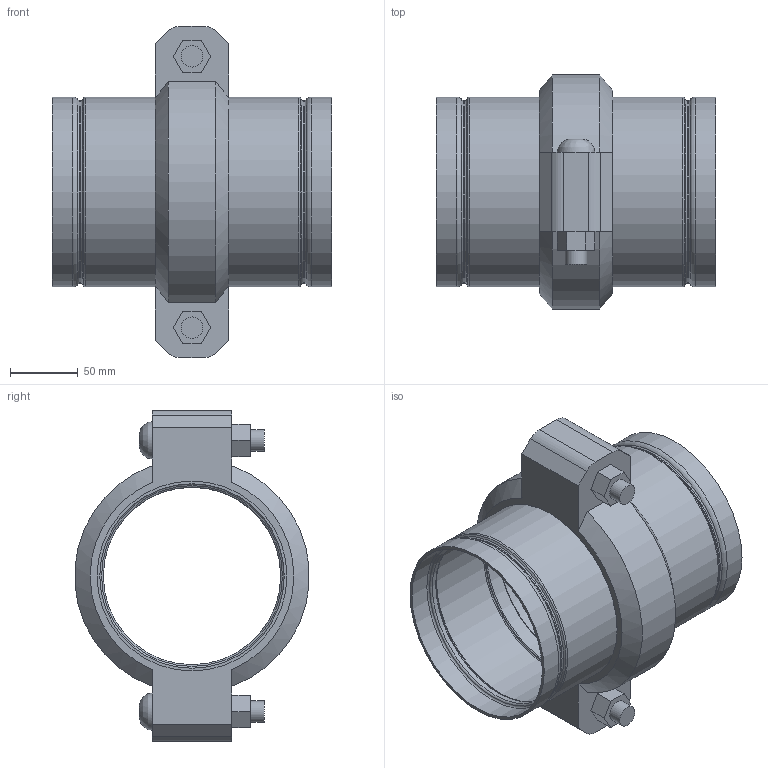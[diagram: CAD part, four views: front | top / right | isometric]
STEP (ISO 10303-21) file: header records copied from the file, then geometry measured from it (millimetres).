
FILE_DESCRIPTION(/* description */ ('VIC STRENGTHIN 100 EXPANSION JOINT 1 COUPLING NEUTRAL STYLE E155 (ST1)','CAx-IF Rec.Pracs.---Representation and Presentation of Product Manufacturing Information (PMI)---4.0---2014-10-13'),/* implementation_level */ '2;1');
FILE_NAME(/* name */ 'C:\Users\Vjadhav\AppData\Roaming\Autodesk\ApplicationPlugins\Victaulic.Temp\A726\Victaulic_SS-StrengThin 100_Expansion Joint_Neutral_1 Coupling_Style E155 (ST1)_1 Coup_Neut_05.0 (139.7) (125).stp',/* time_stamp */ '2021-07-20T17:38:44+05:00',/* author */ ('kkamble'),/* organization */ ('Victaulic'),/* preprocessor_version */ 'ST-DEVELOPER v17.2',/* originating_system */ 'Autodesk Inventor 2019',/* authorisation */ '');
FILE_SCHEMA (('AP242_MANAGED_MODEL_BASED_3D_ENGINEERING_MIM_LF { 1 0 10303 442 1 1 4 }'));
Length unit declared in the file: inch
Products named in the file (3): E155-05.0 (139.7); E494G-05.0 (139.7); 075-05.0 (139.7)
Assembly tree (3 placements, depth 2):
  E155-05.0 (139.7)
    E494G-05.0 (139.7)  x2
    075-05.0 (139.7)
Bounding box: 205.74 x 172.14 x 243.59 mm (x, y, z)
Volume: 820029.7 mm3; surface area: 285380.8 mm2
Topology: 3 solids, 5 shells, 125 faces, 355 edges, 256 vertices
Faces by surface type: plane 48, cylinder 35, torus 32, cone 8, bspline 2
Full cylindrical faces by diameter (mm): 15.875 x4, 17.424 x2, 130.505 x2, 131.47 x2, 133.35 x1, 134.518 x2, 135.484 x2, 135.687 x6, 139.7 x8
Entity records: 3250 total; most frequent: CARTESIAN_POINT 582, DIRECTION 569, ORIENTED_EDGE 488, EDGE_CURVE 244, AXIS2_PLACEMENT_3D 238, VERTEX_POINT 173, CIRCLE 143, EDGE_LOOP 111
